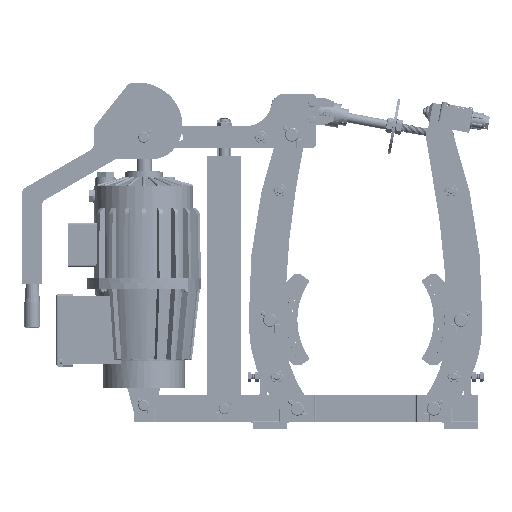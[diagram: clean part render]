
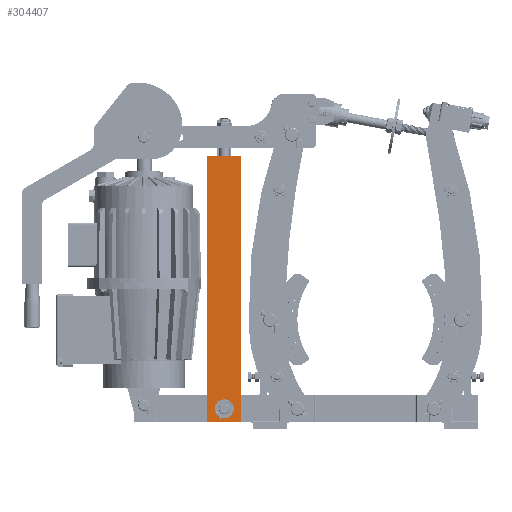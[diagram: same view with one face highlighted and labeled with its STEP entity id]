
A CAD part, left-side view. The second image highlights one B-rep face of the part: STEP entity #304407.
In plain terms, the highlighted planar face has unit normal (-1, 0, 0).
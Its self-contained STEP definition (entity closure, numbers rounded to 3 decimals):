
#304258=DIRECTION('',(0.,0.,1.));
#304259=VECTOR('',#304258,390.);
#304260=CARTESIAN_POINT('',(-71.,397.006,9.996));
#304261=LINE('',#304260,#304259);
#304265=DIRECTION('',(0.,-1.,0.));
#304266=VECTOR('',#304265,50.);
#304267=CARTESIAN_POINT('',(-71.,397.006,399.996));
#304268=LINE('',#304267,#304266);
#304272=DIRECTION('',(0.,0.,-1.));
#304273=VECTOR('',#304272,390.);
#304274=CARTESIAN_POINT('',(-71.,347.006,399.996));
#304275=LINE('',#304274,#304273);
#304279=DIRECTION('',(0.,1.,0.));
#304280=VECTOR('',#304279,50.);
#304281=CARTESIAN_POINT('',(-71.,347.006,9.996));
#304282=LINE('',#304281,#304280);
#304286=CARTESIAN_POINT('',(-71.,380.006,29.996));
#304287=CARTESIAN_POINT('',(-71.,380.006,29.695));
#304288=CARTESIAN_POINT('',(-71.,379.973,29.098));
#304289=CARTESIAN_POINT('',(-71.,379.822,28.211));
#304290=CARTESIAN_POINT('',(-71.,379.573,27.347));
#304291=CARTESIAN_POINT('',(-71.,379.229,26.517));
#304292=CARTESIAN_POINT('',(-71.,378.794,25.73));
#304293=CARTESIAN_POINT('',(-71.,378.273,24.996));
#304294=CARTESIAN_POINT('',(-71.,377.673,24.325));
#304295=CARTESIAN_POINT('',(-71.,377.003,23.727));
#304296=CARTESIAN_POINT('',(-71.,376.27,23.207));
#304297=CARTESIAN_POINT('',(-71.,375.483,22.772));
#304298=CARTESIAN_POINT('',(-71.,374.654,22.429));
#304299=CARTESIAN_POINT('',(-71.,373.791,22.18));
#304300=CARTESIAN_POINT('',(-71.,372.904,22.029));
#304301=CARTESIAN_POINT('',(-71.,372.307,21.996));
#304302=CARTESIAN_POINT('',(-71.,372.006,21.996));
#304307=CARTESIAN_POINT('',(-71.,372.006,21.996));
#304308=CARTESIAN_POINT('',(-71.,371.706,21.996));
#304309=CARTESIAN_POINT('',(-71.,371.109,22.029));
#304310=CARTESIAN_POINT('',(-71.,370.221,22.18));
#304311=CARTESIAN_POINT('',(-71.,369.358,22.429));
#304312=CARTESIAN_POINT('',(-71.,368.528,22.773));
#304313=CARTESIAN_POINT('',(-71.,367.74,23.208));
#304314=CARTESIAN_POINT('',(-71.,367.006,23.729));
#304315=CARTESIAN_POINT('',(-71.,366.336,24.329));
#304316=CARTESIAN_POINT('',(-71.,365.737,24.999));
#304317=CARTESIAN_POINT('',(-71.,365.217,25.732));
#304318=CARTESIAN_POINT('',(-71.,364.783,26.519));
#304319=CARTESIAN_POINT('',(-71.,364.439,27.348));
#304320=CARTESIAN_POINT('',(-71.,364.191,28.211));
#304321=CARTESIAN_POINT('',(-71.,364.04,29.098));
#304322=CARTESIAN_POINT('',(-71.,364.006,29.695));
#304323=CARTESIAN_POINT('',(-71.,364.006,29.996));
#304328=CARTESIAN_POINT('',(-71.,364.006,29.996));
#304329=CARTESIAN_POINT('',(-71.,364.006,30.296));
#304330=CARTESIAN_POINT('',(-71.,364.04,30.893));
#304331=CARTESIAN_POINT('',(-71.,364.191,31.78));
#304332=CARTESIAN_POINT('',(-71.,364.439,32.644));
#304333=CARTESIAN_POINT('',(-71.,364.783,33.474));
#304334=CARTESIAN_POINT('',(-71.,365.219,34.262));
#304335=CARTESIAN_POINT('',(-71.,365.74,34.995));
#304336=CARTESIAN_POINT('',(-71.,366.339,35.666));
#304337=CARTESIAN_POINT('',(-71.,367.009,36.265));
#304338=CARTESIAN_POINT('',(-71.,367.742,36.785));
#304339=CARTESIAN_POINT('',(-71.,368.529,37.219));
#304340=CARTESIAN_POINT('',(-71.,369.358,37.562));
#304341=CARTESIAN_POINT('',(-71.,370.221,37.811));
#304342=CARTESIAN_POINT('',(-71.,371.108,37.962));
#304343=CARTESIAN_POINT('',(-71.,371.705,37.995));
#304344=CARTESIAN_POINT('',(-71.,372.006,37.996));
#304349=CARTESIAN_POINT('',(-71.,372.006,37.996));
#304350=CARTESIAN_POINT('',(-71.,372.307,37.996));
#304351=CARTESIAN_POINT('',(-71.,372.904,37.962));
#304352=CARTESIAN_POINT('',(-71.,373.791,37.811));
#304353=CARTESIAN_POINT('',(-71.,374.655,37.562));
#304354=CARTESIAN_POINT('',(-71.,375.484,37.219));
#304355=CARTESIAN_POINT('',(-71.,376.272,36.783));
#304356=CARTESIAN_POINT('',(-71.,377.006,36.262));
#304357=CARTESIAN_POINT('',(-71.,377.677,35.663));
#304358=CARTESIAN_POINT('',(-71.,378.275,34.992));
#304359=CARTESIAN_POINT('',(-71.,378.795,34.259));
#304360=CARTESIAN_POINT('',(-71.,379.23,33.472));
#304361=CARTESIAN_POINT('',(-71.,379.573,32.643));
#304362=CARTESIAN_POINT('',(-71.,379.822,31.78));
#304363=CARTESIAN_POINT('',(-71.,379.973,30.894));
#304364=CARTESIAN_POINT('',(-71.,380.006,30.296));
#304365=CARTESIAN_POINT('',(-71.,380.006,29.996));
#304370=CARTESIAN_POINT('',(-71.,397.006,9.996));
#304371=CARTESIAN_POINT('',(-71.,397.006,399.996));
#304372=VERTEX_POINT('',#304370);
#304373=VERTEX_POINT('',#304371);
#304374=CARTESIAN_POINT('',(-71.,347.006,399.996));
#304375=VERTEX_POINT('',#304374);
#304376=CARTESIAN_POINT('',(-71.,347.006,9.996));
#304377=VERTEX_POINT('',#304376);
#304378=VERTEX_POINT('',#304286);
#304379=VERTEX_POINT('',#304302);
#304380=VERTEX_POINT('',#304323);
#304381=VERTEX_POINT('',#304344);
#304382=CARTESIAN_POINT('',(-71.,372.006,204.996));
#304383=DIRECTION('',(1.,0.,0.));
#304384=DIRECTION('',(0.,0.,1.));
#304385=AXIS2_PLACEMENT_3D('',#304382,#304383,#304384);
#304386=PLANE('',#304385);
#304388=ORIENTED_EDGE('',*,*,#304387,.T.);
#304390=ORIENTED_EDGE('',*,*,#304389,.T.);
#304392=ORIENTED_EDGE('',*,*,#304391,.T.);
#304394=ORIENTED_EDGE('',*,*,#304393,.T.);
#304395=EDGE_LOOP('',(#304388,#304390,#304392,#304394));
#304396=FACE_OUTER_BOUND('',#304395,.F.);
#304398=ORIENTED_EDGE('',*,*,#304397,.T.);
#304400=ORIENTED_EDGE('',*,*,#304399,.T.);
#304402=ORIENTED_EDGE('',*,*,#304401,.T.);
#304404=ORIENTED_EDGE('',*,*,#304403,.T.);
#304405=EDGE_LOOP('',(#304398,#304400,#304402,#304404));
#304406=FACE_BOUND('',#304405,.F.);
#304407=ADVANCED_FACE('',(#304396,#304406),#304386,.F.);
#304303=B_SPLINE_CURVE_WITH_KNOTS('',3,(#304286,#304287,#304288,#304289,#304290,
#304291,#304292,#304293,#304294,#304295,#304296,#304297,#304298,#304299,#304300,
#304301,#304302),.UNSPECIFIED.,.F.,.F.,(4,1,1,1,1,1,1,1,1,1,1,1,1,1,4),(0.,
0.071,0.143,0.214,0.286,
0.357,0.429,0.5,0.571,0.643,
0.714,0.786,0.857,0.929,1.),
.UNSPECIFIED.);
#304324=B_SPLINE_CURVE_WITH_KNOTS('',3,(#304307,#304308,#304309,#304310,#304311,
#304312,#304313,#304314,#304315,#304316,#304317,#304318,#304319,#304320,#304321,
#304322,#304323),.UNSPECIFIED.,.F.,.F.,(4,1,1,1,1,1,1,1,1,1,1,1,1,1,4),(0.,
0.071,0.143,0.214,0.286,
0.357,0.429,0.5,0.571,0.643,
0.714,0.786,0.857,0.929,1.),
.UNSPECIFIED.);
#304345=B_SPLINE_CURVE_WITH_KNOTS('',3,(#304328,#304329,#304330,#304331,#304332,
#304333,#304334,#304335,#304336,#304337,#304338,#304339,#304340,#304341,#304342,
#304343,#304344),.UNSPECIFIED.,.F.,.F.,(4,1,1,1,1,1,1,1,1,1,1,1,1,1,4),(0.,
0.071,0.143,0.214,0.286,
0.357,0.429,0.5,0.571,0.643,
0.714,0.786,0.857,0.929,1.),
.UNSPECIFIED.);
#304366=B_SPLINE_CURVE_WITH_KNOTS('',3,(#304349,#304350,#304351,#304352,#304353,
#304354,#304355,#304356,#304357,#304358,#304359,#304360,#304361,#304362,#304363,
#304364,#304365),.UNSPECIFIED.,.F.,.F.,(4,1,1,1,1,1,1,1,1,1,1,1,1,1,4),(0.,
0.071,0.143,0.214,0.286,
0.357,0.429,0.5,0.571,0.643,
0.714,0.786,0.857,0.929,1.),
.UNSPECIFIED.);
#304387=EDGE_CURVE('',#304372,#304373,#304261,.T.);
#304389=EDGE_CURVE('',#304373,#304375,#304268,.T.);
#304391=EDGE_CURVE('',#304375,#304377,#304275,.T.);
#304393=EDGE_CURVE('',#304377,#304372,#304282,.T.);
#304397=EDGE_CURVE('',#304378,#304379,#304303,.T.);
#304399=EDGE_CURVE('',#304379,#304380,#304324,.T.);
#304401=EDGE_CURVE('',#304380,#304381,#304345,.T.);
#304403=EDGE_CURVE('',#304381,#304378,#304366,.T.);
